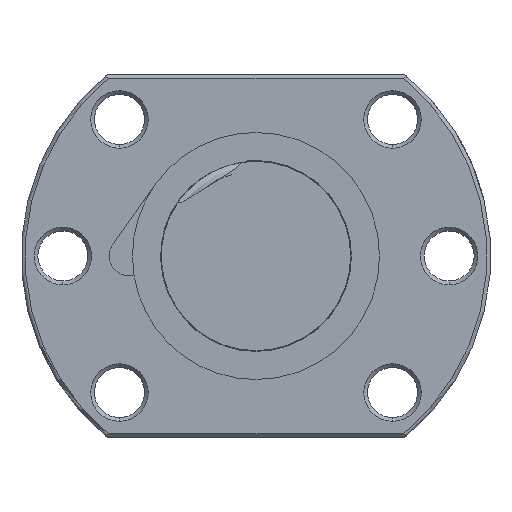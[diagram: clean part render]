
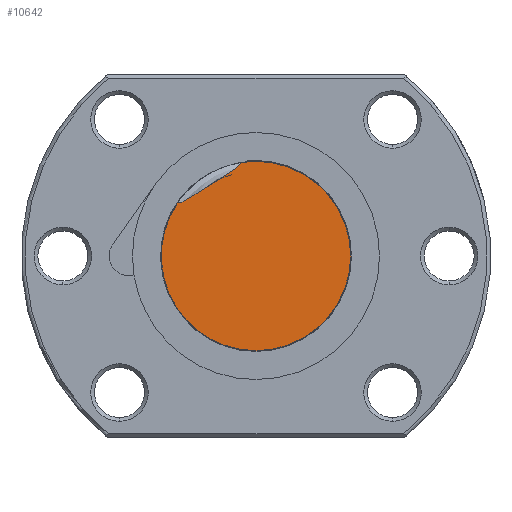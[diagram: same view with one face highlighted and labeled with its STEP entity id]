
A CAD part, left-side view. The second image highlights one B-rep face of the part: STEP entity #10642.
In plain terms, the highlighted planar face has unit normal (-1, 0, 0).
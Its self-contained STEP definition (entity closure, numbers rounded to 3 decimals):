
#5810 = CARTESIAN_POINT ( 'NONE',  ( -196., 10.355, 7.002 ) ) ;
#5822 = CARTESIAN_POINT ( 'NONE',  ( -196., 0., 12.5 ) ) ;
#5823 = CARTESIAN_POINT ( 'NONE',  ( -196., 1.927, 12.351 ) ) ;
#6852 = DIRECTION ( 'NONE',  ( 0., 1., 0. ) ) ;
#6853 = DIRECTION ( 'NONE',  ( 1., 0., 0. ) ) ;
#6854 = AXIS2_PLACEMENT_3D ( 'NONE', #6860, #6853, #6852 ) ;
#6855 = CIRCLE ( 'NONE', #6854, 12.5 ) ;
#6860 = CARTESIAN_POINT ( 'NONE',  ( -196., 0., 0. ) ) ;
#7076 = CARTESIAN_POINT ( 'NONE',  ( -196., 10.355, 7.002 ) ) ;
#7077 = CARTESIAN_POINT ( 'NONE',  ( -196., 10.249, 6.997 ) ) ;
#7078 = CARTESIAN_POINT ( 'NONE',  ( -196., 10.144, 7.013 ) ) ;
#7079 = CARTESIAN_POINT ( 'NONE',  ( -196., 9.941, 7.063 ) ) ;
#7080 = CARTESIAN_POINT ( 'NONE',  ( -196., 9.841, 7.098 ) ) ;
#7081 = CARTESIAN_POINT ( 'NONE',  ( -196., 9.549, 7.215 ) ) ;
#7082 = CARTESIAN_POINT ( 'NONE',  ( -196., 9.363, 7.312 ) ) ;
#7083 = CARTESIAN_POINT ( 'NONE',  ( -196., 8.814, 7.62 ) ) ;
#7084 = CARTESIAN_POINT ( 'NONE',  ( -196., 8.463, 7.851 ) ) ;
#7085 = CARTESIAN_POINT ( 'NONE',  ( -196., 7.763, 8.314 ) ) ;
#7086 = CARTESIAN_POINT ( 'NONE',  ( -196., 7.415, 8.549 ) ) ;
#7087 = CARTESIAN_POINT ( 'NONE',  ( -196., 6.715, 9.012 ) ) ;
#7088 = CARTESIAN_POINT ( 'NONE',  ( -196., 6.364, 9.241 ) ) ;
#7089 = CARTESIAN_POINT ( 'NONE',  ( -196., 5.655, 9.69 ) ) ;
#7090 = CARTESIAN_POINT ( 'NONE',  ( -196., 5.298, 9.911 ) ) ;
#7091 = CARTESIAN_POINT ( 'NONE',  ( -196., 4.581, 10.346 ) ) ;
#7092 = CARTESIAN_POINT ( 'NONE',  ( -196., 4.221, 10.561 ) ) ;
#7093 = CARTESIAN_POINT ( 'NONE',  ( -196., 3.504, 10.998 ) ) ;
#7094 = CARTESIAN_POINT ( 'NONE',  ( -196., 3.147, 11.217 ) ) ;
#7095 = CARTESIAN_POINT ( 'NONE',  ( -196., 2.634, 11.582 ) ) ;
#7096 = CARTESIAN_POINT ( 'NONE',  ( -196., 2.466, 11.71 ) ) ;
#7138 = CARTESIAN_POINT ( 'NONE',  ( -196., 1.927, 12.351 ) ) ;
#7143 = CARTESIAN_POINT ( 'NONE',  ( -196., 2.234, 11.925 ) ) ;
#7144 = CARTESIAN_POINT ( 'NONE',  ( -196., 2.16, 12. ) ) ;
#7145 = CARTESIAN_POINT ( 'NONE',  ( -196., 2.028, 12.163 ) ) ;
#7146 = CARTESIAN_POINT ( 'NONE',  ( -196., 1.968, 12.253 ) ) ;
#7148 = B_SPLINE_CURVE_WITH_KNOTS ( 'NONE', 3,
 ( #7138, #7146, #7145, #7144, #7143, #7096, #7095, #7094, #7093, #7092, #7091, #7090, #7089, #7088, #7087, #7086, #7085, #7084, #7083, #7082, #7081, #7080, #7079, #7078, #7077, #7076 ),
 .UNSPECIFIED., .F., .F.,
 ( 4, 2, 2, 2, 2, 2, 2, 2, 2, 2, 2, 2, 4 ),
 ( 0., 0.001, 0.001, 0.002, 0.003, 0.004, 0.005, 0.007, 0.008, 0.009, 0.01, 0.01, 0.01 ),
 .UNSPECIFIED. ) ;
#7150 = DIRECTION ( 'NONE',  ( 0., 0., -1. ) ) ;
#7151 = DIRECTION ( 'NONE',  ( 1., 0., 0. ) ) ;
#7152 = CARTESIAN_POINT ( 'NONE',  ( -196., 0., 0. ) ) ;
#7153 = AXIS2_PLACEMENT_3D ( 'NONE', #7152, #7151, #7150 ) ;
#7154 = PLANE ( 'NONE',  #7153 ) ;
#7178 = FACE_OUTER_BOUND ( 'NONE', #10643, .T. ) ;
#10143 = VERTEX_POINT ( 'NONE', #22508 ) ;
#10145 = EDGE_CURVE ( 'NONE', #10143, #10329, #22506, .T. ) ;
#10153 = EDGE_CURVE ( 'NONE', #10317, #10318, #22480, .T. ) ;
#10317 = VERTEX_POINT ( 'NONE', #5823 ) ;
#10318 = VERTEX_POINT ( 'NONE', #5822 ) ;
#10329 = VERTEX_POINT ( 'NONE', #5810 ) ;
#10583 = EDGE_CURVE ( 'NONE', #10318, #10143, #6855, .T. ) ;
#10642 = ADVANCED_FACE ( 'NONE', ( #7178 ), #7154, .F. ) ;
#10643 = EDGE_LOOP ( 'NONE', ( #10644, #10645, #10647, #10648 ) ) ;
#10644 = ORIENTED_EDGE ( 'NONE', *, *, #10153, .F. ) ;
#10645 = ORIENTED_EDGE ( 'NONE', *, *, #10646, .T. ) ;
#10646 = EDGE_CURVE ( 'NONE', #10317, #10329, #7148, .T. ) ;
#10647 = ORIENTED_EDGE ( 'NONE', *, *, #10145, .F. ) ;
#10648 = ORIENTED_EDGE ( 'NONE', *, *, #10583, .F. ) ;
#22477 = DIRECTION ( 'NONE',  ( 0., 1., 0. ) ) ;
#22478 = DIRECTION ( 'NONE',  ( 1., 0., 0. ) ) ;
#22479 = AXIS2_PLACEMENT_3D ( 'NONE', #22485, #22478, #22477 ) ;
#22480 = CIRCLE ( 'NONE', #22479, 12.5 ) ;
#22485 = CARTESIAN_POINT ( 'NONE',  ( -196., 0., 0. ) ) ;
#22502 = DIRECTION ( 'NONE',  ( 0., 1., 0. ) ) ;
#22503 = DIRECTION ( 'NONE',  ( 1., 0., 0. ) ) ;
#22504 = CARTESIAN_POINT ( 'NONE',  ( -196., 0., 0. ) ) ;
#22505 = AXIS2_PLACEMENT_3D ( 'NONE', #22504, #22503, #22502 ) ;
#22506 = CIRCLE ( 'NONE', #22505, 12.5 ) ;
#22508 = CARTESIAN_POINT ( 'NONE',  ( -196., 0., -12.5 ) ) ;
